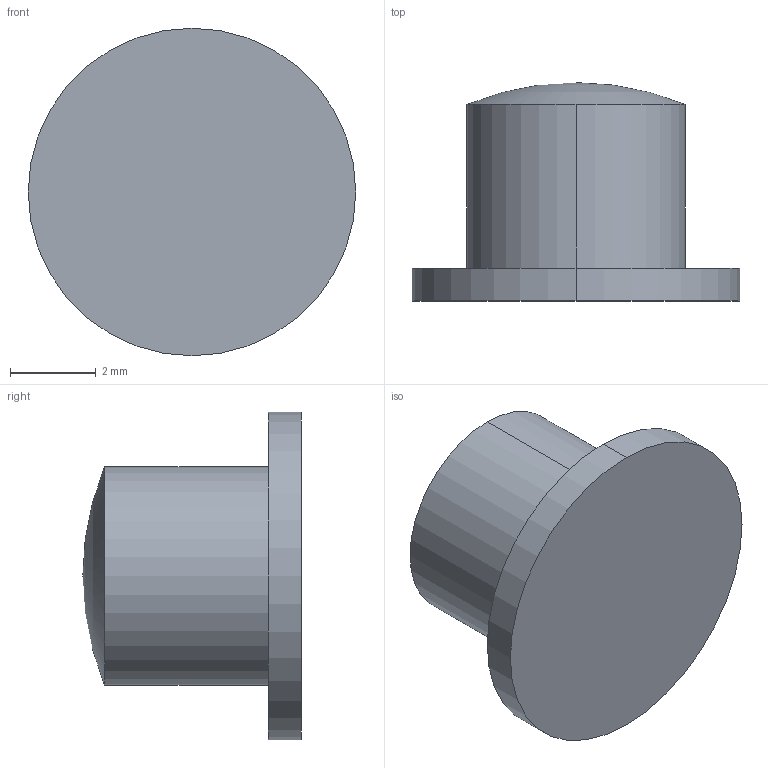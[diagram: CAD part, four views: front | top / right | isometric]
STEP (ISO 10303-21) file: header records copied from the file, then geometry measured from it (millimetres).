
FILE_DESCRIPTION (( 'STEP AP203' ), '1' );
FILE_NAME ('Button.STEP', '2015-02-03T18:44:37', ( '' ), ( '' ), 'SwSTEP 2.0', 'SolidWorks 2014', '' );
FILE_SCHEMA (( 'CONFIG_CONTROL_DESIGN' ));
Length unit declared in the file: inch
Products named in the file (1): Button
Bounding box: 7.62 x 5.08 x 7.62 mm (x, y, z)
Volume: 117.2 mm3; surface area: 171.1 mm2
Topology: 1 solids, 1 shells, 7 faces, 15 edges, 10 vertices
Faces by surface type: cylinder 4, plane 2, sphere 1
Entity records: 253 total; most frequent: DIRECTION 36, CARTESIAN_POINT 28, ORIENTED_EDGE 24, AXIS2_PLACEMENT_3D 16, EDGE_CURVE 12, EDGE_LOOP 8, PERSON_AND_ORGANIZATION 8, VERTEX_POINT 8
